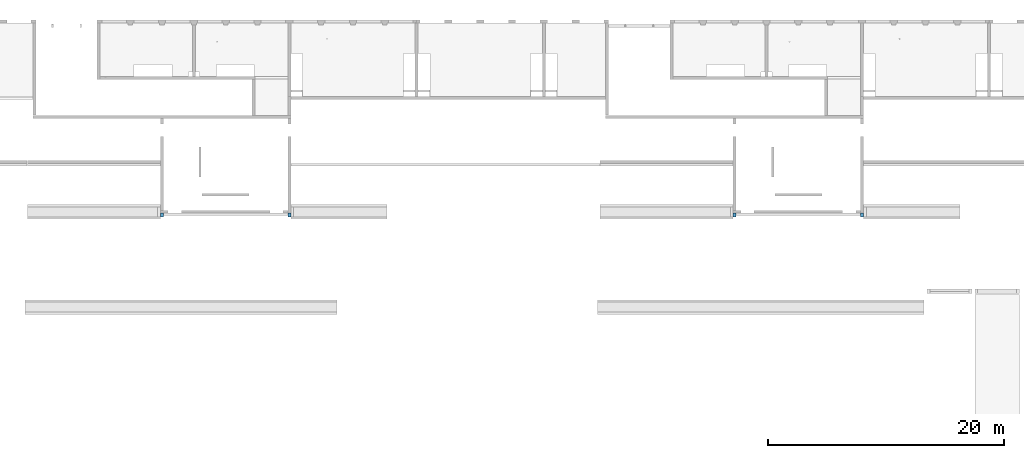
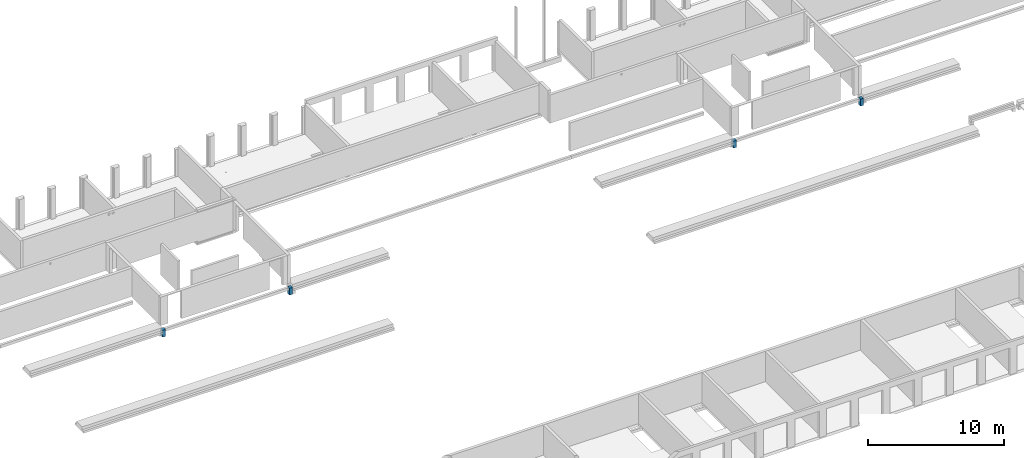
# One storey, part 5 of 18: 4 beams.
"""IFC2X3 building model written with IfcOpenShell, lengths in millimetres."""

from ifc_helpers import new_model, entity, si_unit, converted_unit, derived_unit, direction, frame, frame_2d, origin, place, context, subcontext, project, spatial, rectangle, extrude, material, type_object, element, save


model = new_model("IFC2X3")

# Units and contexts
model_context = context("Model", 3, precision=0.01, world=origin(), true_north=direction((6.12303176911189e-17, 1.0)))
body_context = subcontext(model_context, "Body", "Model", "MODEL_VIEW")
ifc_project = project(units=[si_unit("LENGTHUNIT", "METRE", prefix="MILLI"), si_unit("AREAUNIT", "SQUARE_METRE"), si_unit("VOLUMEUNIT", "CUBIC_METRE"), converted_unit("PLANEANGLEUNIT", "DEGREE", entity("IfcRatioMeasure", 0.0174532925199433), si_unit("PLANEANGLEUNIT", "RADIAN"), dimensions=[0, 0, 0, 0, 0, 0, 0]), si_unit("MASSUNIT", "GRAM", prefix="KILO"), derived_unit("MASSDENSITYUNIT", [(si_unit("MASSUNIT", "GRAM", prefix="KILO"), 1), (si_unit("LENGTHUNIT", "METRE"), -3)]), si_unit("TIMEUNIT", "SECOND"), si_unit("FREQUENCYUNIT", "HERTZ"), si_unit("THERMODYNAMICTEMPERATUREUNIT", "DEGREE_CELSIUS"), derived_unit("THERMALTRANSMITTANCEUNIT", [(si_unit("MASSUNIT", "GRAM", prefix="KILO"), 1), (si_unit("THERMODYNAMICTEMPERATUREUNIT", "KELVIN"), -1), (si_unit("TIMEUNIT", "SECOND"), -3)]), derived_unit("VOLUMETRICFLOWRATEUNIT", [(si_unit("LENGTHUNIT", "METRE"), 3), (si_unit("TIMEUNIT", "SECOND"), -1)]), si_unit("ELECTRICCURRENTUNIT", "AMPERE"), si_unit("ELECTRICVOLTAGEUNIT", "VOLT"), si_unit("POWERUNIT", "WATT"), si_unit("FORCEUNIT", "NEWTON", prefix="KILO"), si_unit("ILLUMINANCEUNIT", "LUX"), si_unit("LUMINOUSFLUXUNIT", "LUMEN"), si_unit("LUMINOUSINTENSITYUNIT", "CANDELA"), derived_unit("USERDEFINED", [(si_unit("MASSUNIT", "GRAM", prefix="KILO"), -1), (si_unit("LENGTHUNIT", "METRE"), -2), (si_unit("TIMEUNIT", "SECOND"), 3), (si_unit("LUMINOUSFLUXUNIT", "LUMEN"), 1)]), derived_unit("LINEARVELOCITYUNIT", [(si_unit("LENGTHUNIT", "METRE"), 1), (si_unit("TIMEUNIT", "SECOND"), -1)]), si_unit("PRESSUREUNIT", "PASCAL"), derived_unit("USERDEFINED", [(si_unit("LENGTHUNIT", "METRE"), -2), (si_unit("MASSUNIT", "GRAM", prefix="KILO"), 1), (si_unit("TIMEUNIT", "SECOND"), -2)])], contexts=[model_context])

# Site, building, storey
site_placement = place(None, origin())
site = spatial("IfcSite", under=ifc_project, at=site_placement, Name="Default", CompositionType="ELEMENT")
building_placement = place(site_placement, origin())
building = spatial("IfcBuilding", under=site, at=building_placement, Name="niet gebruiken", CompositionType="ELEMENT")
storey_placement = place(building_placement, frame((0.0, 0.0, 3690.0)))
storey = spatial("IfcBuildingStorey", under=building, at=storey_placement, Name="01 eerste verdieping", CompositionType="ELEMENT", Elevation=3690.00000000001)

# Beams
ifc_material = material(Name="NLRS_f2_beton ihwg")
beam_type = type_object("IfcBeamType", Name="NLRS_28.11_SF_WPB_oplegnok ihwg beton_gen:620x250", PredefinedType="BEAM")
beam_1_placement = place(storey_placement, frame((37800.0, 36856.0, -210.0), z_axis=(0.0, 0.0, 1.0), x_axis=(0.0, -1.0, 0.0)))
element("IfcBeam", 1, at=beam_1_placement, inside=storey, type_object=beam_type, material=ifc_material, Name="NLRS_28.11_SF_WPB_oplegnok ihwg beton_gen:620x250", ObjectType="NLRS_28.11_SF_WPB_oplegnok ihwg beton_gen:620x250", context=body_context, shape_type="SweptSolid", body=[
    extrude(rectangle(XDim=620.000000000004, YDim=249.999999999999, at=frame_2d((-1.33582034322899e-12, -2.16715534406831e-12), x_axis=(1.0, 0.0))), frame((0.0, 0.0, -310.0), z_axis=(1.0, 0.0, 0.0), x_axis=(0.0, 0.0, -1.0)), (0.0, 0.0, 1.0), 299.99999999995),
])
beam_2_placement = place(storey_placement, frame((48600.0, 36856.0, -210.0), z_axis=(0.0, 0.0, 1.0), x_axis=(0.0, -1.0, 0.0)))
element("IfcBeam", 2, at=beam_2_placement, inside=storey, type_object=beam_type, material=ifc_material, Name="NLRS_28.11_SF_WPB_oplegnok ihwg beton_gen:620x250", ObjectType="NLRS_28.11_SF_WPB_oplegnok ihwg beton_gen:620x250", context=body_context, shape_type="SweptSolid", body=[
    extrude(rectangle(XDim=620.000000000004, YDim=250.000000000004, at=frame_2d((-2.55795384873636e-13, -4.33431068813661e-12), x_axis=(1.0, 0.0))), frame((0.0, 0.0, -310.0), z_axis=(1.0, 0.0, 0.0), x_axis=(0.0, 0.0, -1.0)), (0.0, 0.0, 1.0), 299.99999999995),
])
beam_3_placement = place(storey_placement, frame((86400.0, 36856.0, -210.0), z_axis=(0.0, 0.0, 1.0), x_axis=(0.0, -1.0, 0.0)))
element("IfcBeam", 3, at=beam_3_placement, inside=storey, type_object=beam_type, material=ifc_material, Name="NLRS_28.11_SF_WPB_oplegnok ihwg beton_gen:620x250", ObjectType="NLRS_28.11_SF_WPB_oplegnok ihwg beton_gen:620x250", context=body_context, shape_type="SweptSolid", body=[
    extrude(rectangle(XDim=620.000000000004, YDim=250.000000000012, at=frame_2d((-1.33582034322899e-12, 0.0), x_axis=(1.0, 0.0))), frame((0.0, 0.0, -310.0), z_axis=(1.0, 0.0, 0.0), x_axis=(0.0, 0.0, -1.0)), (0.0, 0.0, 1.0), 299.99999999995),
])
beam_4_placement = place(storey_placement, frame((97200.0, 36856.0, -210.0), z_axis=(0.0, 0.0, 1.0), x_axis=(0.0, -1.0, 0.0)))
element("IfcBeam", 4, at=beam_4_placement, inside=storey, type_object=beam_type, material=ifc_material, Name="NLRS_28.11_SF_WPB_oplegnok ihwg beton_gen:620x250", ObjectType="NLRS_28.11_SF_WPB_oplegnok ihwg beton_gen:620x250", context=body_context, shape_type="SweptSolid", body=[
    extrude(rectangle(XDim=620.000000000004, YDim=250.000000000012, at=frame_2d((-2.55795384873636e-13, 0.0), x_axis=(1.0, 0.0))), frame((0.0, 0.0, -310.0), z_axis=(1.0, 0.0, 0.0), x_axis=(0.0, 0.0, -1.0)), (0.0, 0.0, 1.0), 299.99999999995),
])

save(model, "model.ifc")
